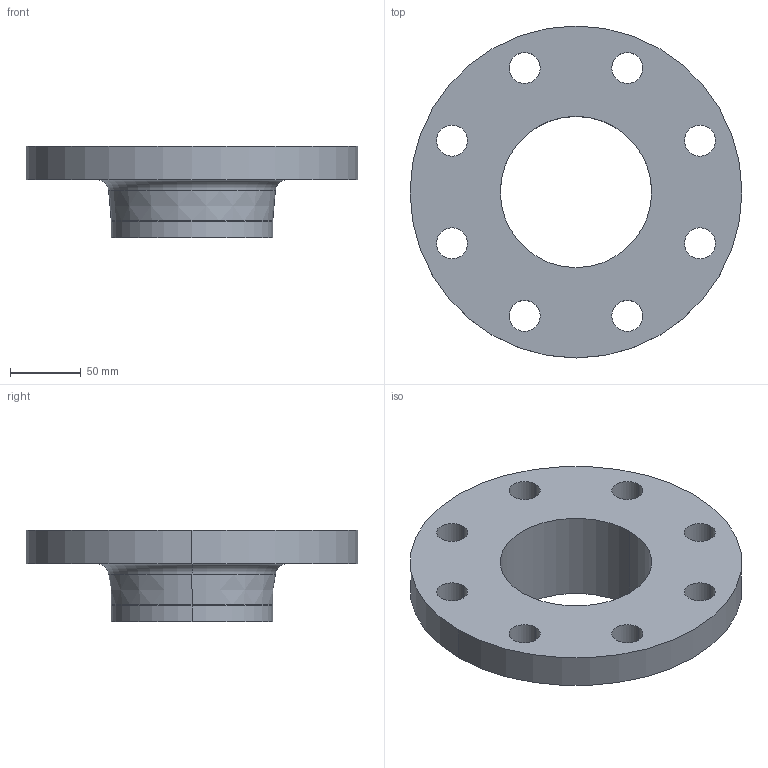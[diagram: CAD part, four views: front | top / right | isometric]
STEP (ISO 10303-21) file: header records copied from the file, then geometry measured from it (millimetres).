
FILE_DESCRIPTION (( 'STEP AP214' ), '1' );
FILE_NAME ('PN40 DN100 Type 11 - Type A Face.STEP', '2019-01-02T00:24:20', ( '' ), ( '' ), 'SwSTEP 2.0', 'SolidWorks 2019', '' );
FILE_SCHEMA (( 'AUTOMOTIVE_DESIGN' ));
Length unit declared in the file: millimetre
Products named in the file (1): PN40 DN100 Type 11 - Type A Face
Bounding box: 235 x 235 x 65 mm (x, y, z)
Volume: 820795.6 mm3; surface area: 128553.1 mm2
Topology: 1 solids, 1 shells, 31 faces, 78 edges, 50 vertices
Faces by surface type: cylinder 22, torus 4, plane 3, cone 2
Entity records: 1028 total; most frequent: DIRECTION 196, CARTESIAN_POINT 160, ORIENTED_EDGE 156, AXIS2_PLACEMENT_3D 86, EDGE_CURVE 78, CIRCLE 54, EDGE_LOOP 50, VERTEX_POINT 50
